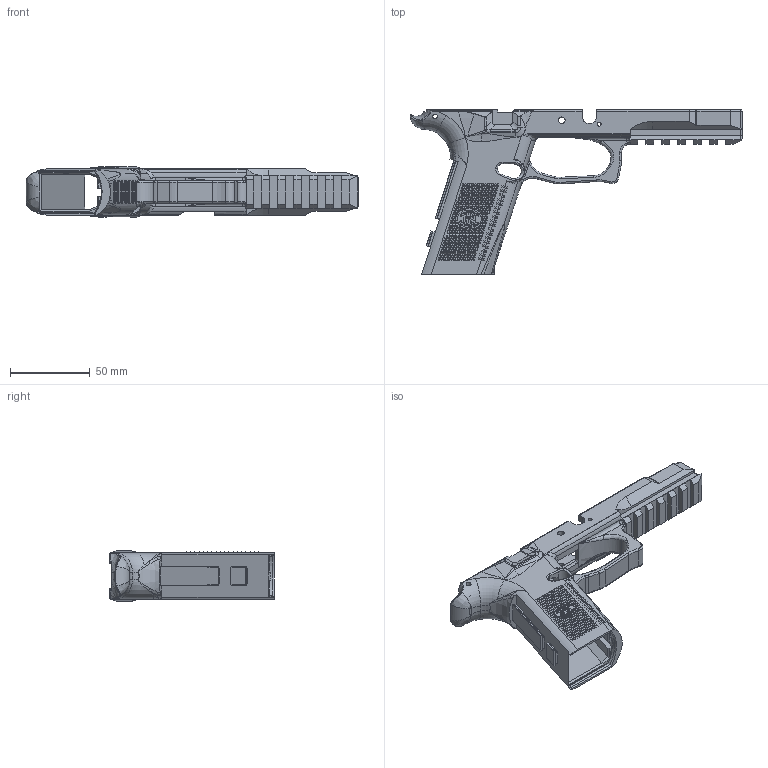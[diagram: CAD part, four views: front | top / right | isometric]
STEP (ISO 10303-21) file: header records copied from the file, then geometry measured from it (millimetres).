
FILE_DESCRIPTION (( 'STEP AP214' ), '1' );
FILE_NAME ('FNS-940 Heirloom Edition V2, no hardware.STEP', '2021-06-15T12:52:44', ( '' ), ( '' ), 'SwSTEP 2.0', 'SolidWorks 2020', '' );
FILE_SCHEMA (( 'AUTOMOTIVE_DESIGN' ));
Length unit declared in the file: millimetre
Products named in the file (1): FNS-940 Heirloom Edition V2, no hardware
Bounding box: 208.64 x 103.6 x 31.98 mm (x, y, z)
Volume: 88134 mm3; surface area: 49367.7 mm2
Topology: 1 solids, 1 shells, 3554 faces, 8818 edges, 5717 vertices
Faces by surface type: plane 2875, cylinder 307, bspline 290, torus 56, cone 14, sphere 12
Entity records: 154644 total; most frequent: CARTESIAN_POINT 34833, ORIENTED_EDGE 17580, DIRECTION 14705, EDGE_CURVE 8790, LINE 6943, VECTOR 6943, VERTEX_POINT 5717, EDGE_LOOP 4055
